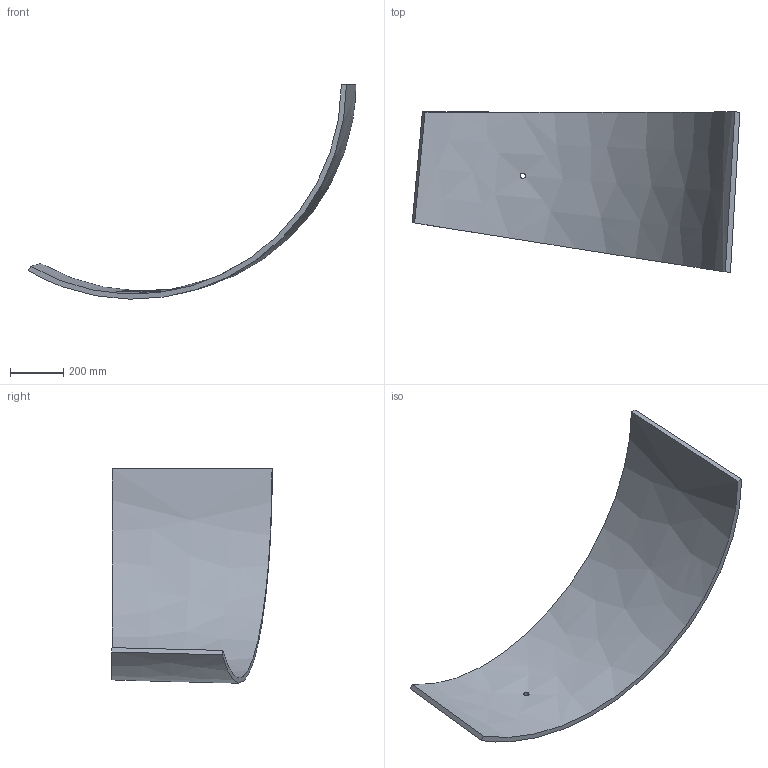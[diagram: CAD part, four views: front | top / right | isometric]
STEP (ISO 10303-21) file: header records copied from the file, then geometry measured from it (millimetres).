
FILE_DESCRIPTION (( 'STEP AP214' ), '1' );
FILE_NAME ('Section 4-A.STEP', '2025-01-09T19:43:27', ( '' ), ( '' ), 'SwSTEP 2.0', 'SolidWorks 2024', '' );
FILE_SCHEMA (( 'AUTOMOTIVE_DESIGN' ));
Length unit declared in the file: inch
Products named in the file (1): Section 4-A
Bounding box: 1228.72 x 602.52 x 803.88 mm (x, y, z)
Volume: 16621920.5 mm3; surface area: 1828396 mm2
Topology: 1 solids, 1 shells, 7 faces, 15 edges, 10 vertices
Faces by surface type: bspline 6, cylinder 1
Full cylindrical faces by diameter (mm): 19.431 x1
Entity records: 517 total; most frequent: CARTESIAN_POINT 380, ORIENTED_EDGE 28, B_SPLINE_CURVE_WITH_KNOTS 14, EDGE_CURVE 14, VERTEX_POINT 10, EDGE_LOOP 10, FACE_OUTER_BOUND 8, ADVANCED_FACE 7
